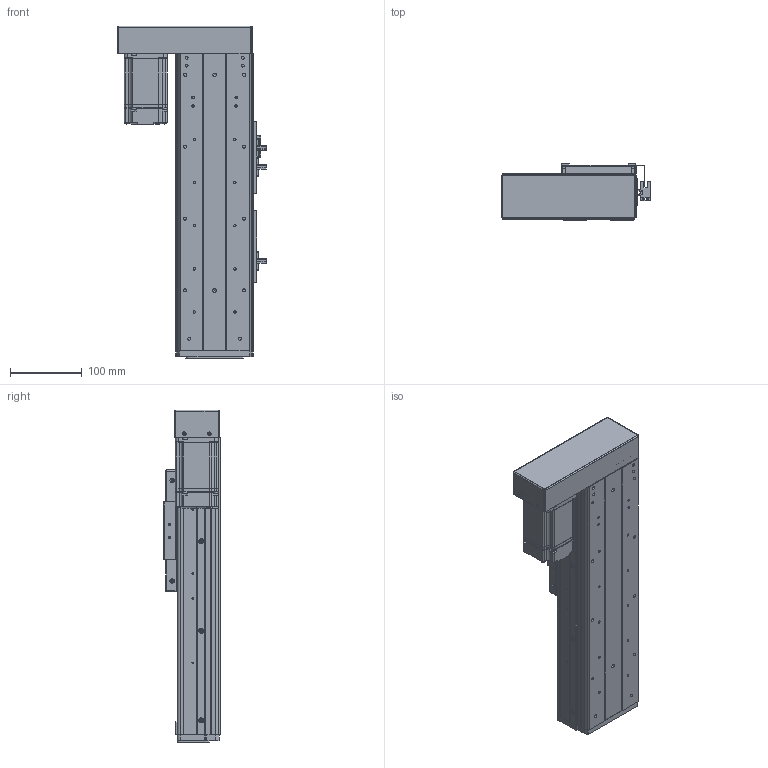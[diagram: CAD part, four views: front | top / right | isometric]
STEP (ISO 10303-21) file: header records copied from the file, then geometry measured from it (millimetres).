
FILE_DESCRIPTION (( 'STEP AP203' ), '1' );
FILE_NAME ('RY100FS-L1620-300-LK(15双轨).SLDASM_150.step', '2021-03-02T07:39:59', ( '盈信电脑' ), ( '东莞市道滘镇水果街19号' ), 'SwSTEP 2.0', 'SolidWorks 2012', '' );
FILE_SCHEMA (( 'CONFIG_CONTROL_DESIGN' ));
Length unit declared in the file: millimetre
Products named in the file (21): RY100FS-L1620-300-LK(15邧寢).SLDASM_150; 蚥薯蝶紫輸; RY100FS-15邧寢蛌殏萇儂欶; 1; RY100FS-15邧寢蛌殏萇儂啣; RY100F-詩湍揤踡輸; RY100FS-15邧寢蛌殏萇儂釱; 滅袉蝶14-35; RY100FS-双轨螺母座(16丝杆）; RY80俋离覜茼え; 672嫖萇羲壽假蚾釱; RY100F-綴裔啣; 覜茼ん672; RY100F-詩湍幗謫粣; 棠沺沭; RY100F-詩湍揤踡謫; RY100F-滅鳥裔啣; RY100FS-双轨铝滑块(上板）; RY100FS-300-LK15邧寢祥凄詩湍_150; RY100FS-300-LK15絳寢倰第奻裔啣_150; RY100FS-300-LK15絳寢倰第菁釱_150
Assembly tree (29 placements, depth 2):
  RY100FS-L1620-300-LK(15邧寢).SLDASM_150
    RY100FS-300-LK15絳寢倰第菁釱_150
    RY100FS-300-LK15絳寢倰第奻裔啣_150  x2
    RY100FS-300-LK15邧寢祥凄詩湍_150
    RY100FS-双轨铝滑块(上板）
    RY100F-滅鳥裔啣
    棠沺沭  x2
    RY100F-詩湍幗謫粣
    RY100F-詩湍揤踡謫  x2
    RY100F-綴裔啣
    672嫖萇羲壽假蚾釱  x2
    RY80俋离覜茼え  x2
    覜茼ん672  x3
    RY100F-詩湍揤踡輸  x2
    RY100FS-双轨螺母座(16丝杆）
    RY100FS-15邧寢蛌殏萇儂釱
    滅袉蝶14-35
    1
    RY100FS-15邧寢蛌殏萇儂啣
    RY100FS-15邧寢蛌殏萇儂欶
    蚥薯蝶紫輸  x2
Bounding box: 207.3 x 78.5 x 462 mm (x, y, z)
Volume: 1589394.7 mm3; surface area: 639598.4 mm2
Topology: 29 solids, 29 shells, 2135 faces, 5728 edges, 3689 vertices
Faces by surface type: plane 1011, cylinder 923, cone 168, bspline 33
Entity records: 59479 total; most frequent: CARTESIAN_POINT 11834, DIRECTION 9559, ORIENTED_EDGE 9260, EDGE_CURVE 4630, AXIS2_PLACEMENT_3D 3370, VERTEX_POINT 3037, VECTOR 2819, LINE 2819
